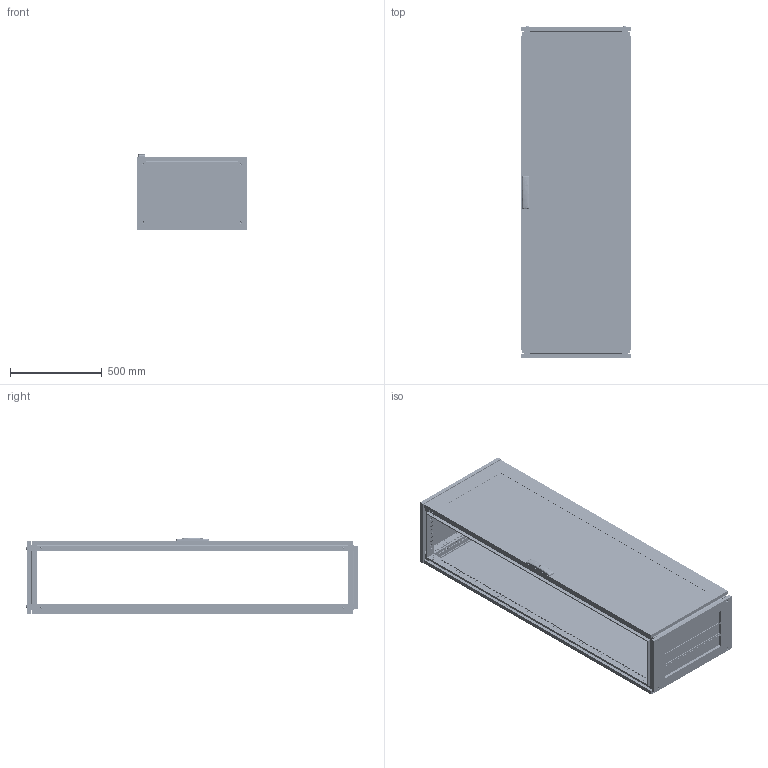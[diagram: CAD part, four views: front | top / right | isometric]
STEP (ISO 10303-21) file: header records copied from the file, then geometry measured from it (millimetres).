
FILE_DESCRIPTION (( 'STEP AP203' ), '1' );
FILE_NAME ('R5CQEN1864AX.STEP', '2025-05-07T11:56:02', ( '' ), ( '' ), 'SwSTEP 2.0', 'SolidWorks 2022', '' );
FILE_SCHEMA (( 'CONFIG_CONTROL_DESIGN' ));
Length unit declared in the file: millimetre
Products named in the file (65): Glue CPTE simple_1800x0600; RB.2456.00.00.0 simple; AC00C446-R; RB.0562.00.00.0 СБ simple_-12; M6x10 DIN 7500 E HX cl.5.8 Zinc_straight; RB.2172.00.00.1 simple; M12x16 ISO 7380-1 HX cl.4,8 Zinc_straight; PF 7x14 CRE simple_1800x0600; 7 DIN 6799 Zinc; Pin 4x16 DIN 7 AISI 303 (A1) simple; RB.2052.00.00.0 СБ simple_-17; R5NCRE-Assem simple_R5NCRE1860; M6x10 DIN 7500 M Torx cl.5.8 Zinc_straight; TPA.08.0139.00.01.0 simple; RB.2968.00.00.0 simple; R5NKTB - Assem simple_H=1800 R5NKTB64; TPA.08.0139.00.03.0; R5NKMN - Assem simple_R5NKMN18 (600х400); M8x12 AC00C476 cl.8,8 Zinc_stright; RB.2499.00.00.0 СБ simple_-12; RB.2357.00.00.0 simple_-03; 4.8x13 DIN 7981 PH Zinc_straight; 7 DIN 6799 Zinc simple; 4,0x16 F Torx Zinc (ART 88200)_thread; TPA.08.0083.00.00.0 simple; M6x10 DIN 912 HX cl.8,8 Zinc_straight; PF 5x10 KTB simple_600x400; ATOS Traction guide ILY03.35; RB.2455.00.00.0 simple_-02; RB.1728.00.00.0 simple_-01; Square cap 20x20 simple; TPA.08.0084.00.00.0 simple; RB.0562.01.01.0 simple_-12; RB.0054.01.01.0 simple_-17; RB.2685.00.00.0 simple; RB.2969.00.01.0 simple; RB.0528.04.00.0 СБ simple; Glass CPTE_1800x0600; RB.2680.00.01.0 simple; R5CQEN1864AX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
Assembly tree (173 placements, depth 5):
  R5CQEN1864AX
    R5NCPTE - Assem simple_R5NCPTE1860
      RB.0562.00.00.0 СБ simple_-12
        RB.0562.01.00.0 СБ simple_-12
          RB.0562.01.01.0 simple_-12
          М6х12 A5100231_straight  x7
          RB.2702.00.00.0 simple  x4
          PF 7,5x15 CPE simple_1800x0600
          Glass CPTE_1800x0600
          Glue CPTE simple_1800x0600
        Square cap 20x20 simple  x2
        M6x15 Erickson cl.4,8 Zinc  x2
        RB.0528.00.01.0 simple_-04  x2
        ATOS Traction guide ILY03.35  x4
        RB.2357.00.00.0 simple_-03
        RB.2680.00.00.0 СБ simple
          TPA.08.0139.00.01.0 simple
          RB.2680.00.01.0 simple
          RB.2680.00.02.0 simple  x2
        TPA.08.0139.00.03.0  x2
        M6 DIN 985 cl.6,0 Zinc_straight  x4
        4,0x16 F Torx Zinc (ART 88200)_thread  x2
        RB.0528.04.00.0 СБ simple  x2
          RB.0528.04.01.0 simple
          Pressing stud FH-M6-12_M6x12mm
      M6x10 DIN 912 HX cl.8,8 Zinc_straight  x8
      4.8x13 DIN 7981 PH Zinc_straight
      7 DIN 6799 Zinc simple  x4
      RB.2968.00.00.0 simple  x4
      RB.2969.00.00.0 СБ simple  x4
        RB.2969.00.01.0 simple
        Pin 4x16 DIN 7 AISI 303 (A1) simple
        M6 MGR-MKO-0625 simple_Thread
      AC00C446-R
      RB.2696.00.00.0 simple  x4
      7 DIN 6799 Zinc  x4
    R5NCRE-Assem simple_R5NCRE1860
      RB.2052.00.00.0 СБ simple_-17
        RB.2052.01.00.0 СБ simple_-17
          RB.0054.01.01.0 simple_-17
          М6х12 A5100231_straight  x4
        PF 7x14 CRE simple_1800x0600
      RB.2172.00.00.1 simple  x8
      M6x10 DIN 7500 E HX cl.5.8 Zinc_straight  x8
      M6x10 DIN 7500 M Torx cl.5.8 Zinc_straight  x8
    R5NKMN - Assem simple_R5NKMN18 (600х400)
      RB.2528.00.00.0 simple_-04  x4
    R5NKTB - Assem simple_H=1800 R5NKTB64
      RB.2499.00.00.0 СБ simple_-12
        RB.2499.01.00.0 СБ simple_-11
          RB.1633.00.01.0 simple_-02  x2
          RB.1633.00.02.0 simple_default  x2
          PF 5x10 KTB simple_600x400
        RB.2457.00.00.0 СБ simple_-12
          RB.2455.00.00.0 simple_-02  x2
          RB.2456.00.00.0 simple  x2
          TPA.08.0084.00.00.0 simple  x2
          TPA.08.0083.00.00.0 simple  x2
          M8x12 AC00C476 cl.8,8 Zinc_stright  x4
        RB.1728.00.00.0 simple_-01  x3
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Bounding box: 600 x 1813.3 x 414.74 mm (x, y, z)
Volume: 13060448.5 mm3; surface area: 11210647.6 mm2
Topology: 176 solids, 192 shells, 20381 faces, 57503 edges, 37827 vertices
Faces by surface type: plane 11547, cylinder 7293, cone 704, bspline 435, torus 368, sphere 34
Entity records: 205481 total; most frequent: CARTESIAN_POINT 52119, ORIENTED_EDGE 30282, DIRECTION 28707, EDGE_CURVE 15167, VERTEX_POINT 10034, AXIS2_PLACEMENT_3D 9613, LINE 9481, VECTOR 9481
